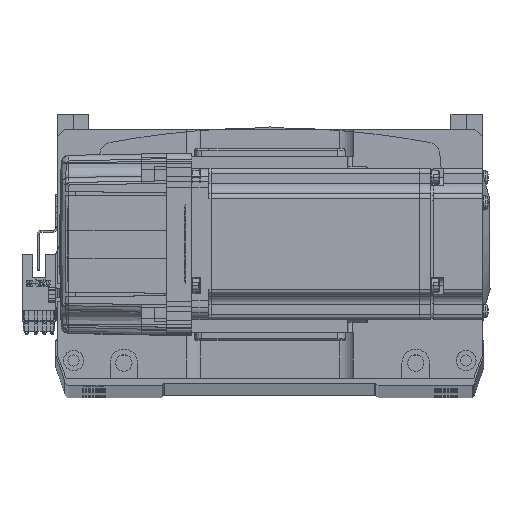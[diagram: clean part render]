
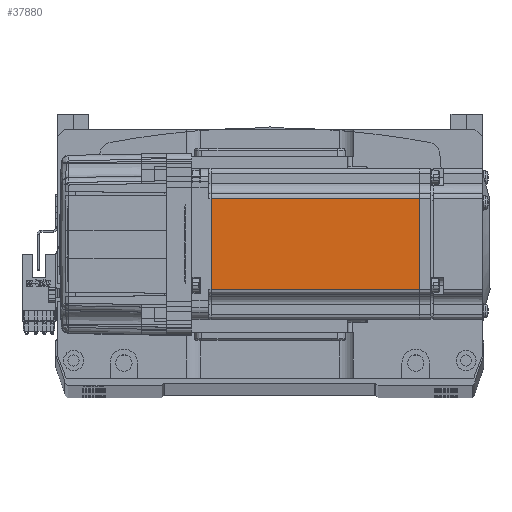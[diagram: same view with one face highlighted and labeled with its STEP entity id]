
A CAD part, top view. The second image highlights one B-rep face of the part: STEP entity #37880.
In plain terms, the highlighted planar face has unit normal (0, 0, 1) as drawn and (0, -1, 0) by its records, which use the part's own axes.
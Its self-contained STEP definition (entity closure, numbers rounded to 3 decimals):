
#670 = EDGE_CURVE ( 'NONE', #63346, #45285, #23194, .T. ) ;
#1628 = CARTESIAN_POINT ( 'NONE',  ( -7.75, -30., -18. ) ) ;
#2514 = DIRECTION ( 'NONE',  ( -1., 0., 0. ) ) ;
#3586 = VECTOR ( 'NONE', #5532, 1000. ) ;
#4611 = VERTEX_POINT ( 'NONE', #18714 ) ;
#5532 = DIRECTION ( 'NONE',  ( 0., 0., 1. ) ) ;
#7955 = VECTOR ( 'NONE', #19687, 1000. ) ;
#9429 = DIRECTION ( 'NONE',  ( 1., 0., 0. ) ) ;
#10175 = ORIENTED_EDGE ( 'NONE', *, *, #670, .T. ) ;
#10864 = AXIS2_PLACEMENT_3D ( 'NONE', #27081, #16392, #70135 ) ;
#11588 = CARTESIAN_POINT ( 'NONE',  ( -90.45, -30., -18. ) ) ;
#11931 = EDGE_CURVE ( 'NONE', #4611, #63346, #57480, .T. ) ;
#12661 = FACE_OUTER_BOUND ( 'NONE', #29745, .T. ) ;
#13604 = ORIENTED_EDGE ( 'NONE', *, *, #11931, .T. ) ;
#16392 = DIRECTION ( 'NONE',  ( 0., -1., 0. ) ) ;
#18714 = CARTESIAN_POINT ( 'NONE',  ( -7.75, -30., 18. ) ) ;
#19687 = DIRECTION ( 'NONE',  ( 0., 0., -1. ) ) ;
#21475 = CARTESIAN_POINT ( 'NONE',  ( -90.45, -30., 18. ) ) ;
#23194 = LINE ( 'NONE', #29679, #7955 ) ;
#27081 = CARTESIAN_POINT ( 'NONE',  ( -6.5, -30., -25. ) ) ;
#29679 = CARTESIAN_POINT ( 'NONE',  ( -90.45, -30., -25. ) ) ;
#29745 = EDGE_LOOP ( 'NONE', ( #56762, #13604, #10175, #42845 ) ) ;
#32176 = VECTOR ( 'NONE', #2514, 1000. ) ;
#32291 = PLANE ( 'NONE',  #10864 ) ;
#37851 = CARTESIAN_POINT ( 'NONE',  ( -7.75, -30., -25. ) ) ;
#37880 = ADVANCED_FACE ( 'NONE', ( #12661 ), #32291, .T. ) ;
#41745 = CARTESIAN_POINT ( 'NONE',  ( -6.5, -30., -18. ) ) ;
#42845 = ORIENTED_EDGE ( 'NONE', *, *, #49917, .T. ) ;
#43941 = VERTEX_POINT ( 'NONE', #1628 ) ;
#45285 = VERTEX_POINT ( 'NONE', #11588 ) ;
#45768 = CARTESIAN_POINT ( 'NONE',  ( -6.5, -30., 18. ) ) ;
#49917 = EDGE_CURVE ( 'NONE', #45285, #43941, #57038, .T. ) ;
#51068 = EDGE_CURVE ( 'NONE', #43941, #4611, #52610, .T. ) ;
#52610 = LINE ( 'NONE', #37851, #3586 ) ;
#56762 = ORIENTED_EDGE ( 'NONE', *, *, #51068, .T. ) ;
#57038 = LINE ( 'NONE', #41745, #69001 ) ;
#57480 = LINE ( 'NONE', #45768, #32176 ) ;
#63346 = VERTEX_POINT ( 'NONE', #21475 ) ;
#69001 = VECTOR ( 'NONE', #9429, 1000. ) ;
#70135 = DIRECTION ( 'NONE',  ( 0., 0., -1. ) ) ;
